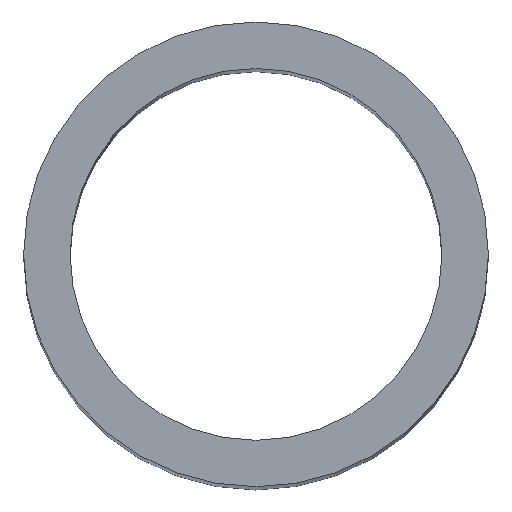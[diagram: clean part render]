
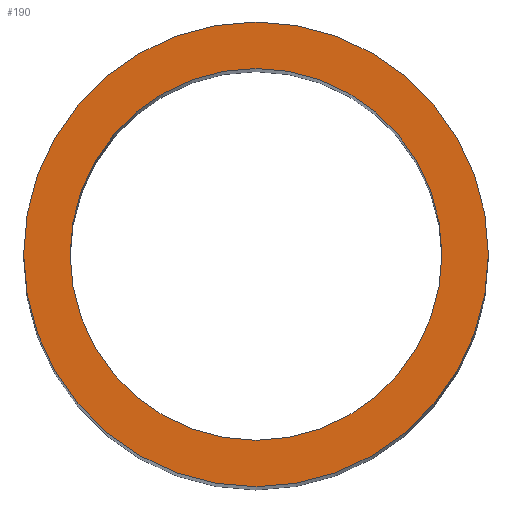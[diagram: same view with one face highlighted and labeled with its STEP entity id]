
A CAD part, top view. The second image highlights one B-rep face of the part: STEP entity #190.
In plain terms, the highlighted planar face has unit normal (0, 0, 1).
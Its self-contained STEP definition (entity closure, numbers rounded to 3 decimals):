
#24 = VERTEX_POINT('',#25);
#25 = CARTESIAN_POINT('',(2.5,0.,20.));
#32 = CYLINDRICAL_SURFACE('',#33,2.5);
#33 = AXIS2_PLACEMENT_3D('',#34,#35,#36);
#34 = CARTESIAN_POINT('',(0.,0.,0.));
#35 = DIRECTION('',(-0.,-0.,-1.));
#36 = DIRECTION('',(1.,0.,0.));
#51 = EDGE_CURVE('',#24,#24,#52,.T.);
#52 = SURFACE_CURVE('',#53,(#58,#65),.PCURVE_S1.);
#53 = CIRCLE('',#54,2.5);
#54 = AXIS2_PLACEMENT_3D('',#55,#56,#57);
#55 = CARTESIAN_POINT('',(0.,0.,20.));
#56 = DIRECTION('',(0.,0.,1.));
#57 = DIRECTION('',(1.,0.,0.));
#58 = PCURVE('',#32,#59);
#59 = DEFINITIONAL_REPRESENTATION('',(#60),#64);
#60 = LINE('',#61,#62);
#61 = CARTESIAN_POINT('',(-0.,-20.));
#62 = VECTOR('',#63,1.);
#63 = DIRECTION('',(-1.,0.));
#64 = ( GEOMETRIC_REPRESENTATION_CONTEXT(2) 
PARAMETRIC_REPRESENTATION_CONTEXT() REPRESENTATION_CONTEXT('2D SPACE',''
  ) );
#65 = PCURVE('',#66,#71);
#66 = PLANE('',#67);
#67 = AXIS2_PLACEMENT_3D('',#68,#69,#70);
#68 = CARTESIAN_POINT('',(0.,0.,20.));
#69 = DIRECTION('',(0.,0.,1.));
#70 = DIRECTION('',(1.,0.,-0.));
#71 = DEFINITIONAL_REPRESENTATION('',(#72),#76);
#72 = CIRCLE('',#73,2.5);
#73 = AXIS2_PLACEMENT_2D('',#74,#75);
#74 = CARTESIAN_POINT('',(0.,0.));
#75 = DIRECTION('',(1.,0.));
#76 = ( GEOMETRIC_REPRESENTATION_CONTEXT(2) 
PARAMETRIC_REPRESENTATION_CONTEXT() REPRESENTATION_CONTEXT('2D SPACE',''
  ) );
#112 = VERTEX_POINT('',#113);
#113 = CARTESIAN_POINT('',(2.,0.,20.));
#120 = CYLINDRICAL_SURFACE('',#121,2.);
#121 = AXIS2_PLACEMENT_3D('',#122,#123,#124);
#122 = CARTESIAN_POINT('',(0.,0.,0.));
#123 = DIRECTION('',(-0.,-0.,-1.));
#124 = DIRECTION('',(1.,0.,0.));
#139 = EDGE_CURVE('',#112,#112,#140,.T.);
#140 = SURFACE_CURVE('',#141,(#146,#153),.PCURVE_S1.);
#141 = CIRCLE('',#142,2.);
#142 = AXIS2_PLACEMENT_3D('',#143,#144,#145);
#143 = CARTESIAN_POINT('',(0.,0.,20.));
#144 = DIRECTION('',(0.,0.,1.));
#145 = DIRECTION('',(1.,0.,0.));
#146 = PCURVE('',#120,#147);
#147 = DEFINITIONAL_REPRESENTATION('',(#148),#152);
#148 = LINE('',#149,#150);
#149 = CARTESIAN_POINT('',(-0.,-20.));
#150 = VECTOR('',#151,1.);
#151 = DIRECTION('',(-1.,0.));
#152 = ( GEOMETRIC_REPRESENTATION_CONTEXT(2) 
PARAMETRIC_REPRESENTATION_CONTEXT() REPRESENTATION_CONTEXT('2D SPACE',''
  ) );
#153 = PCURVE('',#66,#154);
#154 = DEFINITIONAL_REPRESENTATION('',(#155),#159);
#155 = CIRCLE('',#156,2.);
#156 = AXIS2_PLACEMENT_2D('',#157,#158);
#157 = CARTESIAN_POINT('',(0.,0.));
#158 = DIRECTION('',(1.,0.));
#159 = ( GEOMETRIC_REPRESENTATION_CONTEXT(2) 
PARAMETRIC_REPRESENTATION_CONTEXT() REPRESENTATION_CONTEXT('2D SPACE',''
  ) );
#190 = ADVANCED_FACE('',(#191,#194),#66,.T.);
#191 = FACE_BOUND('',#192,.T.);
#192 = EDGE_LOOP('',(#193));
#193 = ORIENTED_EDGE('',*,*,#51,.T.);
#194 = FACE_BOUND('',#195,.T.);
#195 = EDGE_LOOP('',(#196));
#196 = ORIENTED_EDGE('',*,*,#139,.F.);
